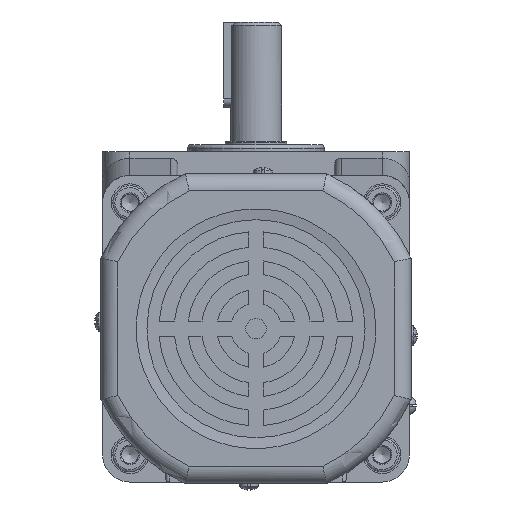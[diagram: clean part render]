
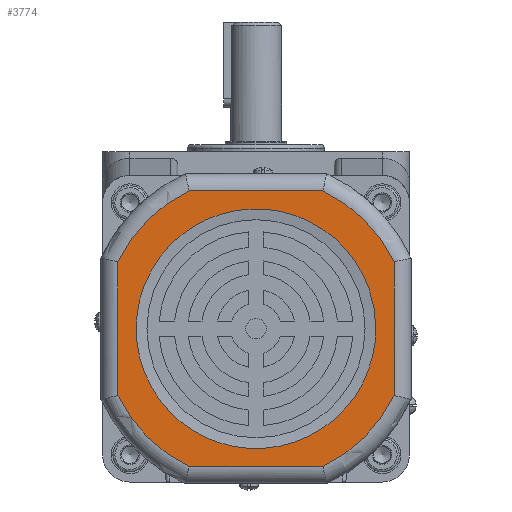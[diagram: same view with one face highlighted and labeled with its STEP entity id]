
A CAD part, front view. The second image highlights one B-rep face of the part: STEP entity #3774.
In plain terms, the highlighted planar face has unit normal (0, -1, 0).
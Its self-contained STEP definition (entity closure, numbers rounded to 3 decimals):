
#141=LINE('',#17343,#893);
#142=LINE('',#17345,#894);
#144=LINE('',#17348,#896);
#146=LINE('',#17351,#898);
#893=VECTOR('',#13802,1.);
#894=VECTOR('',#13805,1.);
#896=VECTOR('',#13809,1.);
#898=VECTOR('',#13813,1.);
#2332=B_SPLINE_CURVE_WITH_KNOTS('',3,(#17354,#17355,#17356,#17357,#17358,
#17359,#17360,#17361,#17362,#17363,#17364,#17365,#17366,#17367,#17368,#17369,
#17370,#17371,#17372,#17373,#17374,#17375,#17376,#17377,#17378,#17379,#17380,
#17381,#17382,#17383,#17384,#17385,#17386,#17387),.UNSPECIFIED.,.T.,.F.,
(2,2,2,2,2,2,2,2,2,2,2,2,2,2,2,2,2,2,2),(-0.062,0.,0.063,
0.125,0.188,0.25,0.313,0.375,0.438,0.5,0.563,0.625,0.688,0.75,0.813,
0.875,0.938,1.,1.063),.UNSPECIFIED.);
#3774=ADVANCED_FACE('',(#4850,#4851),#4475,.T.);
#4475=PLANE('',#12433);
#4850=FACE_BOUND('',#5166,.T.);
#4851=FACE_BOUND('',#5167,.T.);
#5166=EDGE_LOOP('',(#6070));
#5167=EDGE_LOOP('',(#6071,#6072,#6073,#6074,#6075,#6076,#6077,#6078));
#6070=ORIENTED_EDGE('',*,*,#10076,.F.);
#6071=ORIENTED_EDGE('',*,*,#10069,.T.);
#6072=ORIENTED_EDGE('',*,*,#10065,.T.);
#6073=ORIENTED_EDGE('',*,*,#10074,.T.);
#6074=ORIENTED_EDGE('',*,*,#10061,.T.);
#6075=ORIENTED_EDGE('',*,*,#10072,.T.);
#6076=ORIENTED_EDGE('',*,*,#10057,.T.);
#6077=ORIENTED_EDGE('',*,*,#10070,.T.);
#6078=ORIENTED_EDGE('',*,*,#10053,.T.);
#9070=VERTEX_POINT('',#17230);
#9072=VERTEX_POINT('',#17233);
#9074=VERTEX_POINT('',#17261);
#9076=VERTEX_POINT('',#17264);
#9078=VERTEX_POINT('',#17292);
#9080=VERTEX_POINT('',#17295);
#9082=VERTEX_POINT('',#17323);
#9084=VERTEX_POINT('',#17326);
#9086=VERTEX_POINT('',#17388);
#10053=EDGE_CURVE('',#9072,#9070,#11595,.T.);
#10057=EDGE_CURVE('',#9076,#9074,#11597,.T.);
#10061=EDGE_CURVE('',#9080,#9078,#11599,.T.);
#10065=EDGE_CURVE('',#9084,#9082,#11601,.T.);
#10069=EDGE_CURVE('',#9070,#9084,#141,.T.);
#10070=EDGE_CURVE('',#9074,#9072,#142,.T.);
#10072=EDGE_CURVE('',#9078,#9076,#144,.T.);
#10074=EDGE_CURVE('',#9082,#9080,#146,.T.);
#10076=EDGE_CURVE('',#9086,#9086,#2332,.T.);
#11595=CIRCLE('',#12417,45.);
#11597=CIRCLE('',#12420,45.);
#11599=CIRCLE('',#12423,45.);
#11601=CIRCLE('',#12426,45.);
#12417=AXIS2_PLACEMENT_3D('',#17232,#13777,#13778);
#12420=AXIS2_PLACEMENT_3D('',#17263,#13783,#13784);
#12423=AXIS2_PLACEMENT_3D('',#17294,#13789,#13790);
#12426=AXIS2_PLACEMENT_3D('',#17325,#13795,#13796);
#12433=AXIS2_PLACEMENT_3D('',#17389,#13817,#13818);
#13777=DIRECTION('',(0.,-1.,0.));
#13778=DIRECTION('',(1.,0.,0.));
#13783=DIRECTION('',(0.,-1.,0.));
#13784=DIRECTION('',(1.,0.,0.));
#13789=DIRECTION('',(0.,-1.,0.));
#13790=DIRECTION('',(1.,0.,0.));
#13795=DIRECTION('',(0.,-1.,0.));
#13796=DIRECTION('',(1.,0.,0.));
#13802=DIRECTION('',(-1.,0.,0.));
#13805=DIRECTION('',(0.,0.,1.));
#13809=DIRECTION('',(1.,0.,0.));
#13813=DIRECTION('',(0.,0.,-1.));
#13817=DIRECTION('',(0.,-1.,0.));
#13818=DIRECTION('',(1.,0.,0.));
#17230=CARTESIAN_POINT('',(19.615,-219.,-11.5));
#17232=CARTESIAN_POINT('',(0.,-219.,-52.));
#17233=CARTESIAN_POINT('',(40.5,-219.,-32.385));
#17261=CARTESIAN_POINT('',(40.5,-219.,-71.615));
#17263=CARTESIAN_POINT('',(0.,-219.,-52.));
#17264=CARTESIAN_POINT('',(19.615,-219.,-92.5));
#17292=CARTESIAN_POINT('',(-19.615,-219.,-92.5));
#17294=CARTESIAN_POINT('',(0.,-219.,-52.));
#17295=CARTESIAN_POINT('',(-40.5,-219.,-71.615));
#17323=CARTESIAN_POINT('',(-40.5,-219.,-32.385));
#17325=CARTESIAN_POINT('',(0.,-219.,-52.));
#17326=CARTESIAN_POINT('',(-19.615,-219.,-11.5));
#17343=CARTESIAN_POINT('',(-20.73,-219.,-11.5));
#17345=CARTESIAN_POINT('',(40.5,-219.,-31.27));
#17348=CARTESIAN_POINT('',(20.73,-219.,-92.5));
#17351=CARTESIAN_POINT('',(-40.5,-219.,-72.73));
#17354=CARTESIAN_POINT('',(35.157,-219.,-56.602));
#17355=CARTESIAN_POINT('',(35.157,-219.,-47.398));
#17356=CARTESIAN_POINT('',(34.242,-219.,-42.798));
#17357=CARTESIAN_POINT('',(30.72,-219.,-34.294));
#17358=CARTESIAN_POINT('',(28.114,-219.,-30.394));
#17359=CARTESIAN_POINT('',(21.606,-219.,-23.886));
#17360=CARTESIAN_POINT('',(17.706,-219.,-21.28));
#17361=CARTESIAN_POINT('',(9.202,-219.,-17.758));
#17362=CARTESIAN_POINT('',(4.602,-219.,-16.843));
#17363=CARTESIAN_POINT('',(-4.602,-219.,-16.843));
#17364=CARTESIAN_POINT('',(-9.202,-219.,-17.758));
#17365=CARTESIAN_POINT('',(-17.706,-219.,-21.28));
#17366=CARTESIAN_POINT('',(-21.606,-219.,-23.886));
#17367=CARTESIAN_POINT('',(-28.114,-219.,-30.394));
#17368=CARTESIAN_POINT('',(-30.72,-219.,-34.294));
#17369=CARTESIAN_POINT('',(-34.242,-219.,-42.798));
#17370=CARTESIAN_POINT('',(-35.157,-219.,-47.398));
#17371=CARTESIAN_POINT('',(-35.157,-219.,-56.602));
#17372=CARTESIAN_POINT('',(-34.242,-219.,-61.202));
#17373=CARTESIAN_POINT('',(-30.72,-219.,-69.706));
#17374=CARTESIAN_POINT('',(-28.114,-219.,-73.606));
#17375=CARTESIAN_POINT('',(-21.606,-219.,-80.114));
#17376=CARTESIAN_POINT('',(-17.706,-219.,-82.72));
#17377=CARTESIAN_POINT('',(-9.202,-219.,-86.242));
#17378=CARTESIAN_POINT('',(-4.602,-219.,-87.157));
#17379=CARTESIAN_POINT('',(4.602,-219.,-87.157));
#17380=CARTESIAN_POINT('',(9.202,-219.,-86.242));
#17381=CARTESIAN_POINT('',(17.706,-219.,-82.72));
#17382=CARTESIAN_POINT('',(21.606,-219.,-80.114));
#17383=CARTESIAN_POINT('',(28.114,-219.,-73.606));
#17384=CARTESIAN_POINT('',(30.72,-219.,-69.706));
#17385=CARTESIAN_POINT('',(34.242,-219.,-61.202));
#17386=CARTESIAN_POINT('',(35.157,-219.,-56.602));
#17387=CARTESIAN_POINT('',(35.157,-219.,-47.398));
#17388=CARTESIAN_POINT('',(35.157,-219.,-52.));
#17389=CARTESIAN_POINT('',(0.,-219.,-16.843));
